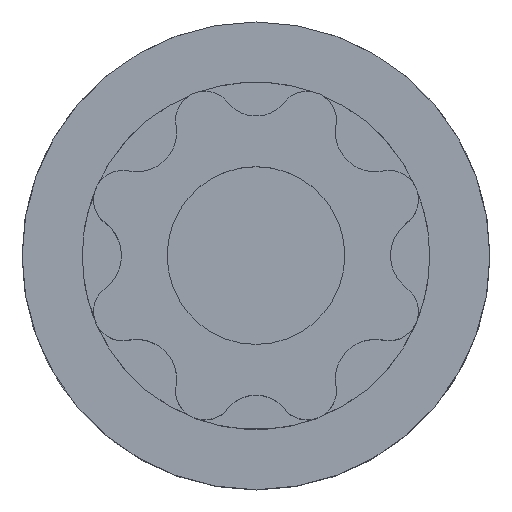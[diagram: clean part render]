
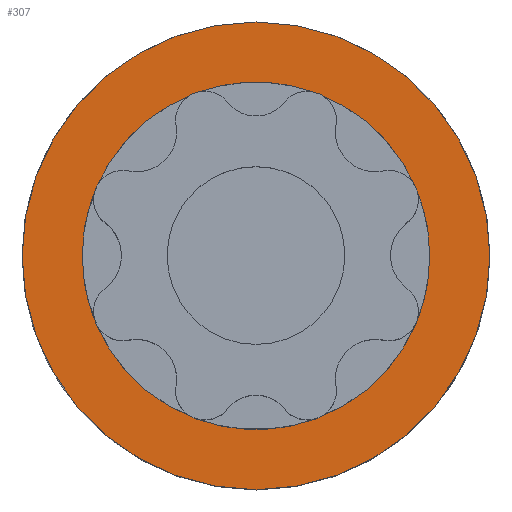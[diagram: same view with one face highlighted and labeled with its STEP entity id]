
A CAD part, top view. The second image highlights one B-rep face of the part: STEP entity #307.
In plain terms, the highlighted planar face has unit normal (0, 0, 1).
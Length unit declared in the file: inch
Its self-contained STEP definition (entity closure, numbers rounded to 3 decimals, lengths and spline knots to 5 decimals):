
#30 = CARTESIAN_POINT ( 'NONE',  ( 1., 0., 2.135 ) ) ;
#59 = CARTESIAN_POINT ( 'NONE',  ( 0., -0.579, 2.135 ) ) ;
#83 = CARTESIAN_POINT ( 'NONE',  ( -1., 0., 2.135 ) ) ;
#93 = DIRECTION ( 'NONE',  ( 0., 0., 1. ) ) ;
#97 = PLANE ( 'NONE',  #1721 ) ;
#110 = DIRECTION ( 'NONE',  ( 1., 0., 0. ) ) ;
#115 = CARTESIAN_POINT ( 'NONE',  ( 0., 0., 2.135 ) ) ;
#141 = CARTESIAN_POINT ( 'NONE',  ( 0., 0.579, 2.135 ) ) ;
#157 = EDGE_LOOP ( 'NONE', ( #682, #191 ) ) ;
#191 = ORIENTED_EDGE ( 'NONE', *, *, #1508, .T. ) ;
#307 = ADVANCED_FACE ( 'NONE', ( #1169, #1174 ), #97, .T. ) ;
#333 = DIRECTION ( 'NONE',  ( 1., 0., 0. ) ) ;
#352 = EDGE_LOOP ( 'NONE', ( #388, #680 ) ) ;
#388 = ORIENTED_EDGE ( 'NONE', *, *, #1599, .F. ) ;
#451 = VERTEX_POINT ( 'NONE', #30 ) ;
#478 = VERTEX_POINT ( 'NONE', #59 ) ;
#680 = ORIENTED_EDGE ( 'NONE', *, *, #1551, .F. ) ;
#682 = ORIENTED_EDGE ( 'NONE', *, *, #1507, .T. ) ;
#819 = VERTEX_POINT ( 'NONE', #83 ) ;
#936 = CARTESIAN_POINT ( 'NONE',  ( 0., 0., 2.135 ) ) ;
#937 = DIRECTION ( 'NONE',  ( 0., 0., 1. ) ) ;
#938 = DIRECTION ( 'NONE',  ( 1., 0., 0. ) ) ;
#1094 = VERTEX_POINT ( 'NONE', #141 ) ;
#1118 = CARTESIAN_POINT ( 'NONE',  ( 0., 0., 2.135 ) ) ;
#1121 = DIRECTION ( 'NONE',  ( 0., 0., 1. ) ) ;
#1169 = FACE_OUTER_BOUND ( 'NONE', #157, .T. ) ;
#1174 = FACE_BOUND ( 'NONE', #352, .T. ) ;
#1273 = CARTESIAN_POINT ( 'NONE',  ( 0., 0., 2.135 ) ) ;
#1274 = DIRECTION ( 'NONE',  ( 0., 0., 1. ) ) ;
#1275 = DIRECTION ( 'NONE',  ( 1., 0., 0. ) ) ;
#1430 = DIRECTION ( 'NONE',  ( 0., 0., 1. ) ) ;
#1431 = CARTESIAN_POINT ( 'NONE',  ( 0., 0., 2.135 ) ) ;
#1432 = DIRECTION ( 'NONE',  ( 1., 0., 0. ) ) ;
#1507 = EDGE_CURVE ( 'NONE', #819, #451, #1835, .T. ) ;
#1508 = EDGE_CURVE ( 'NONE', #451, #819, #1833, .T. ) ;
#1551 = EDGE_CURVE ( 'NONE', #1094, #478, #1894, .T. ) ;
#1599 = EDGE_CURVE ( 'NONE', #478, #1094, #1954, .T. ) ;
#1695 = AXIS2_PLACEMENT_3D ( 'NONE', #936, #937, #938 ) ;
#1721 = AXIS2_PLACEMENT_3D ( 'NONE', #115, #93, #110 ) ;
#1742 = AXIS2_PLACEMENT_3D ( 'NONE', #1431, #1430, #1432 ) ;
#1755 = AXIS2_PLACEMENT_3D ( 'NONE', #1118, #1121, #333 ) ;
#1798 = AXIS2_PLACEMENT_3D ( 'NONE', #1273, #1274, #1275 ) ;
#1833 = CIRCLE ( 'NONE', #1742, 1. ) ;
#1835 = CIRCLE ( 'NONE', #1755, 1. ) ;
#1894 = CIRCLE ( 'NONE', #1695, 0.579 ) ;
#1954 = CIRCLE ( 'NONE', #1798, 0.579 ) ;
